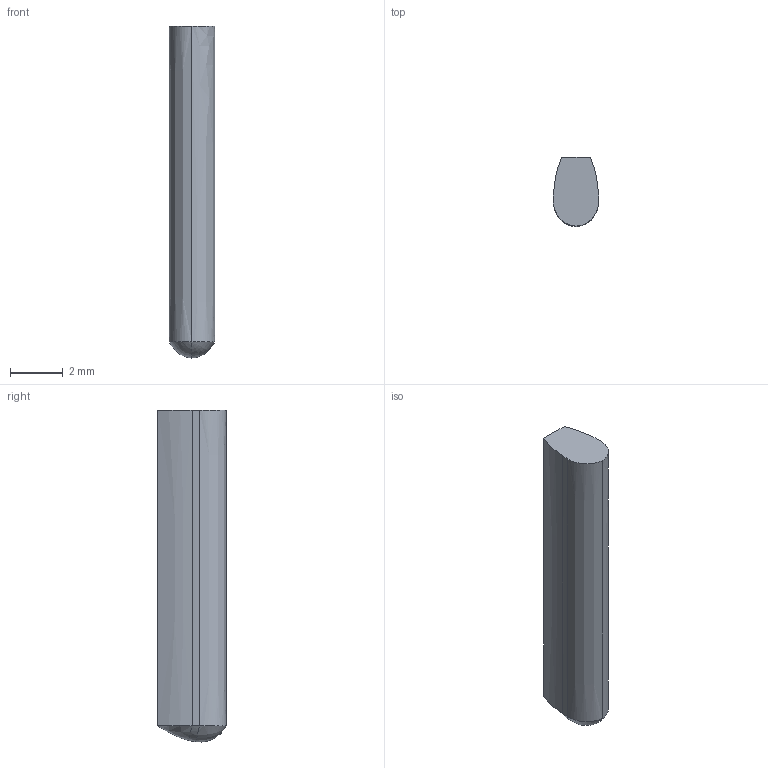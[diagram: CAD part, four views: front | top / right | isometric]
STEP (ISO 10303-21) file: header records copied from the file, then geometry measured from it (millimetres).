
FILE_DESCRIPTION((''),'2;1');
FILE_NAME('DE8-06','2008-09-08T',('awalter'),(''),'PRO/ENGINEER BY PARAMETRIC TECHNOLOGY CORPORATION, 2003450','PRO/ENGINEER BY PARAMETRIC TECHNOLOGY CORPORATION, 2003450','');
FILE_SCHEMA(('CONFIG_CONTROL_DESIGN'));
Length unit declared in the file: millimetre
Products named in the file (1): DE8-06
Bounding box: 1.74 x 2.61 x 12.62 mm (x, y, z)
Volume: 46.9 mm3; surface area: 96.8 mm2
Topology: 1 solids, 1 shells, 14 faces, 33 edges, 19 vertices
Faces by surface type: bspline 6, extrusion 5, plane 2, cylinder 1
Entity records: 633 total; most frequent: CARTESIAN_POINT 338, ORIENTED_EDGE 62, EDGE_CURVE 31, DIRECTION 25, B_SPLINE_CURVE_WITH_KNOTS 24, VERTEX_POINT 19, VECTOR 15, EDGE_LOOP 14
